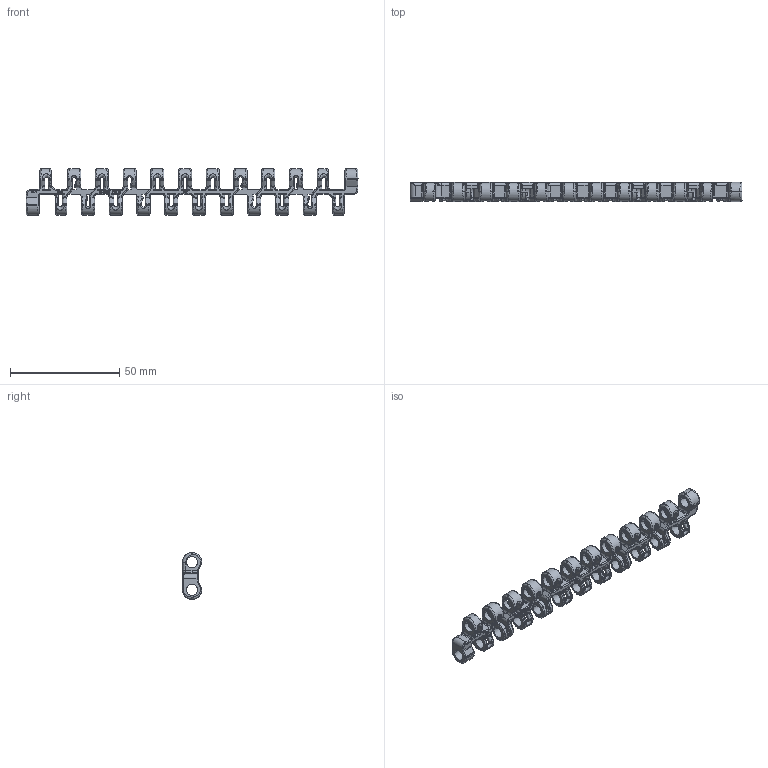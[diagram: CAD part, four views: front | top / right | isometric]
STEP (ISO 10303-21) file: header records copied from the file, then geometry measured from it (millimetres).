
FILE_DESCRIPTION((''),'2;1');
FILE_NAME('UNI_M-SNB-M2_K600','2009-08-26T',('mth'),(''),'PRO/ENGINEER BY PARAMETRIC TECHNOLOGY CORPORATION, 2008490','PRO/ENGINEER BY PARAMETRIC TECHNOLOGY CORPORATION, 2008490','');
FILE_SCHEMA(('AUTOMOTIVE_DESIGN { 1 0 10303 214 1 1 1 1 }'));
Products named in the file (1): UNI_M-SNB-M2_K600
Bounding box: 152.05 x 8.8 x 21.5 mm (x, y, z)
Volume: 7497.6 mm3; surface area: 10023 mm2
Topology: 2 solids, 2 shells, 3467 faces, 8741 edges, 5163 vertices
Faces by surface type: bspline 1534, plane 831, cylinder 796, torus 274, sphere 28, extrusion 4
Entity records: 155955 total; most frequent: CARTESIAN_POINT 84065, ORIENTED_EDGE 17426, DIRECTION 10998, EDGE_CURVE 8713, VERTEX_POINT 5163, AXIS2_PLACEMENT_3D 3926, B_SPLINE_CURVE_WITH_KNOTS 3578, EDGE_LOOP 3524
